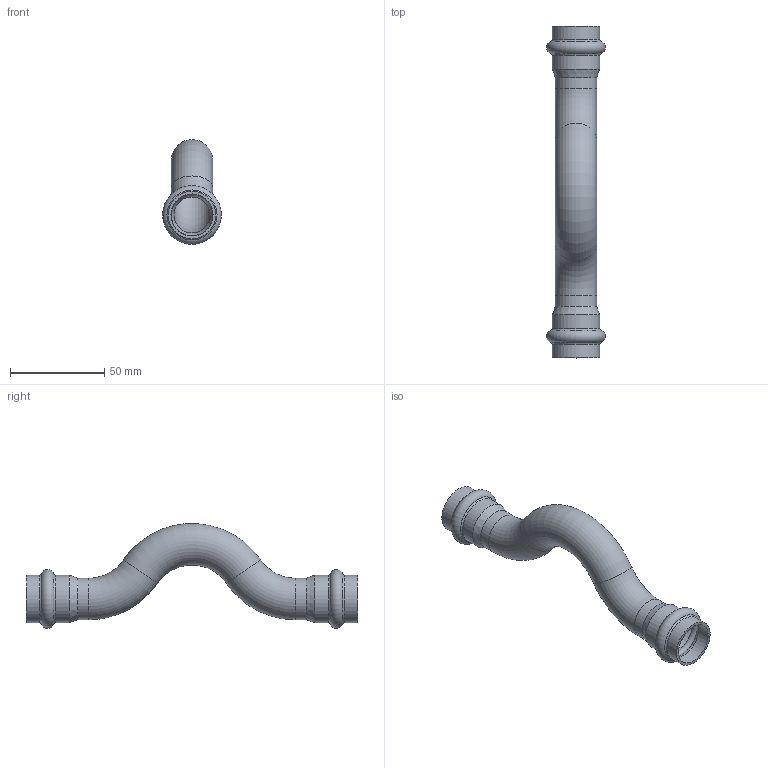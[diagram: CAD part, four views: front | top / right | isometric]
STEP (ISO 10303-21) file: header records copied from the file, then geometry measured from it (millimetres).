
FILE_DESCRIPTION(('STEP AP203'), '1');
FILE_NAME('VTi.971.I.002222', '', ('UNSPECIFIED'), ('UNSPECIFIED'), 'C3D Converter', 'C3D Toolkit', '');
FILE_SCHEMA(('CONFIG_CONTROL_DESIGN'));
Length unit declared in the file: millimetre
Products named in the file (1): ВР.302661.007.000 СБ
Bounding box: 31.08 x 176 x 55.44 mm (x, y, z)
Volume: 21492.3 mm3; surface area: 29496.4 mm2
Topology: 3 solids, 3 shells, 38 faces, 78 edges, 42 vertices
Faces by surface type: torus 20, cylinder 12, cone 4, plane 2
Full cylindrical faces by diameter (mm): 19.1 x2, 22 x2, 22.3 x4, 25.2 x4
Entity records: 840 total; most frequent: DIRECTION 158, CARTESIAN_POINT 119, ORIENTED_EDGE 80, AXIS2_PLACEMENT_3D 79, EDGE_LOOP 72, FACE_OUTER_BOUND 60, EDGE_CURVE 40, VERTEX_POINT 40
